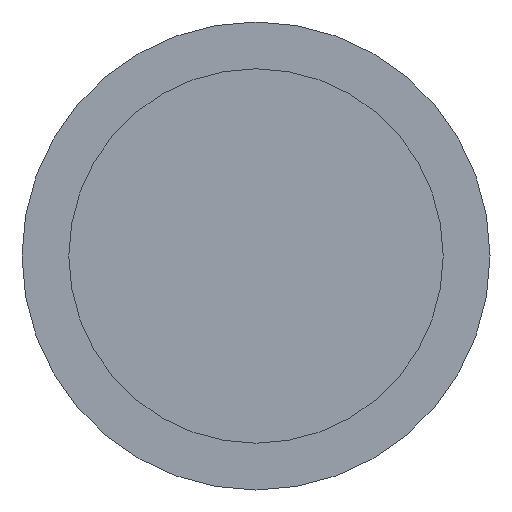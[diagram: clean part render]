
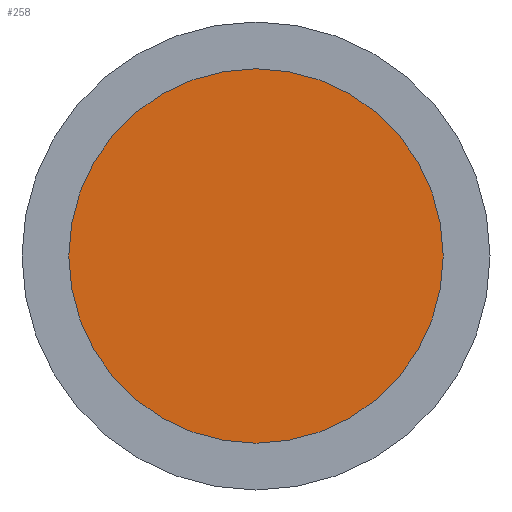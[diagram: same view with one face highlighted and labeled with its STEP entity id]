
A CAD part, left-side view. The second image highlights one B-rep face of the part: STEP entity #258.
In plain terms, the highlighted planar face has unit normal (-1, 0, 0).
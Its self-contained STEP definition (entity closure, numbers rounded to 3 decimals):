
#113 = VERTEX_POINT ( 'NONE', #430 ) ;
#115 = EDGE_CURVE ( 'NONE', #113, #116, #429, .T. ) ;
#116 = VERTEX_POINT ( 'NONE', #424 ) ;
#256 = EDGE_LOOP ( 'NONE', ( #263, #262 ) ) ;
#258 = ADVANCED_FACE ( 'NONE', ( #1221 ), #1220, .F. ) ;
#262 = ORIENTED_EDGE ( 'NONE', *, *, #115, .F. ) ;
#263 = ORIENTED_EDGE ( 'NONE', *, *, #266, .F. ) ;
#266 = EDGE_CURVE ( 'NONE', #116, #113, #1259, .T. ) ;
#424 = CARTESIAN_POINT ( 'NONE',  ( 0., 0., 12. ) ) ;
#425 = DIRECTION ( 'NONE',  ( 0., 0., -1. ) ) ;
#426 = DIRECTION ( 'NONE',  ( 1., 0., 0. ) ) ;
#427 = CARTESIAN_POINT ( 'NONE',  ( 0., 0., 0. ) ) ;
#428 = AXIS2_PLACEMENT_3D ( 'NONE', #427, #426, #425 ) ;
#429 = CIRCLE ( 'NONE', #428, 12. ) ;
#430 = CARTESIAN_POINT ( 'NONE',  ( 0., 0., -12. ) ) ;
#1216 = DIRECTION ( 'NONE',  ( 0., 0., -1. ) ) ;
#1217 = DIRECTION ( 'NONE',  ( 1., 0., 0. ) ) ;
#1218 = CARTESIAN_POINT ( 'NONE',  ( 0., 0., 0. ) ) ;
#1219 = AXIS2_PLACEMENT_3D ( 'NONE', #1218, #1217, #1216 ) ;
#1220 = PLANE ( 'NONE',  #1219 ) ;
#1221 = FACE_OUTER_BOUND ( 'NONE', #256, .T. ) ;
#1255 = DIRECTION ( 'NONE',  ( 0., 0., -1. ) ) ;
#1256 = DIRECTION ( 'NONE',  ( 1., 0., 0. ) ) ;
#1257 = CARTESIAN_POINT ( 'NONE',  ( 0., 0., 0. ) ) ;
#1258 = AXIS2_PLACEMENT_3D ( 'NONE', #1257, #1256, #1255 ) ;
#1259 = CIRCLE ( 'NONE', #1258, 12. ) ;
